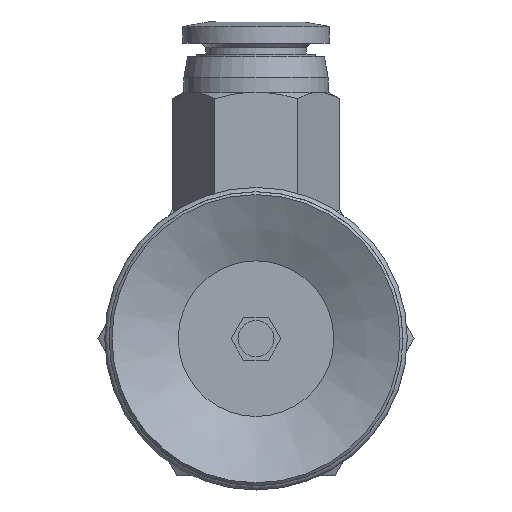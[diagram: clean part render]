
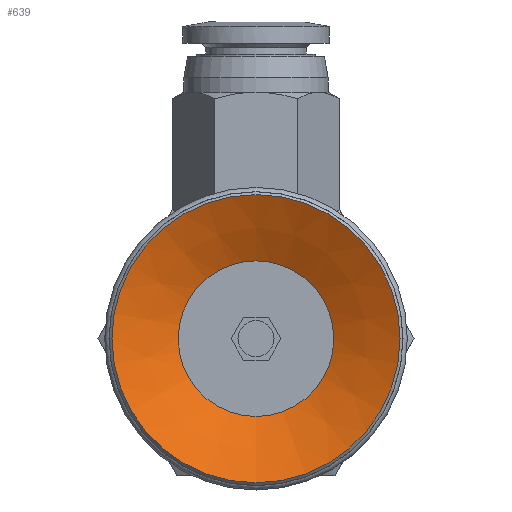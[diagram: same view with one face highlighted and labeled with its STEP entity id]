
A CAD part, front view. The second image highlights one B-rep face of the part: STEP entity #639.
In plain terms, the highlighted conical face has half-angle 63 degrees and reference radius 5.4 mm.
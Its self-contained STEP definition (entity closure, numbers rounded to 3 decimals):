
#639=ADVANCED_FACE('',(#997,#998),#999,.F.);
#997=FACE_BOUND('',#1436,.T.);
#998=FACE_OUTER_BOUND('',#1437,.T.);
#999=CONICAL_SURFACE('',#1438,5.4,1.1);
#1436=EDGE_LOOP('',(#2657));
#1437=EDGE_LOOP('',(#2658));
#1438=AXIS2_PLACEMENT_3D('',#2659,#2660,#2661);
#2657=ORIENTED_EDGE('',*,*,#3232,.F.);
#2658=ORIENTED_EDGE('',*,*,#3233,.T.);
#2659=CARTESIAN_POINT('',(0.0,5.518,0.0));
#2660=DIRECTION('',(-0.0,-1.0,0.));
#2661=DIRECTION('',(0.0,0.,-1.0));
#3232=EDGE_CURVE('',#3738,#3738,#3739,.T.);
#3233=EDGE_CURVE('',#3740,#3740,#3741,.T.);
#3738=VERTEX_POINT('',#4784);
#3739=CIRCLE('',#4785,5.4);
#3740=VERTEX_POINT('',#4786);
#3741=CIRCLE('',#4787,10.0);
#4784=CARTESIAN_POINT('',(0.0,5.518,-5.4));
#4785=AXIS2_PLACEMENT_3D('',#5618,#5619,#5620);
#4786=CARTESIAN_POINT('',(0.0,3.175,-10.0));
#4787=AXIS2_PLACEMENT_3D('',#5621,#5622,#5623);
#5618=CARTESIAN_POINT('',(0.0,5.518,0.0));
#5619=DIRECTION('',(0.0,-1.0,0.));
#5620=DIRECTION('',(0.0,0.,-1.0));
#5621=CARTESIAN_POINT('',(0.0,3.175,0.0));
#5622=DIRECTION('',(0.0,-1.0,0.));
#5623=DIRECTION('',(0.0,0.,-1.0));
